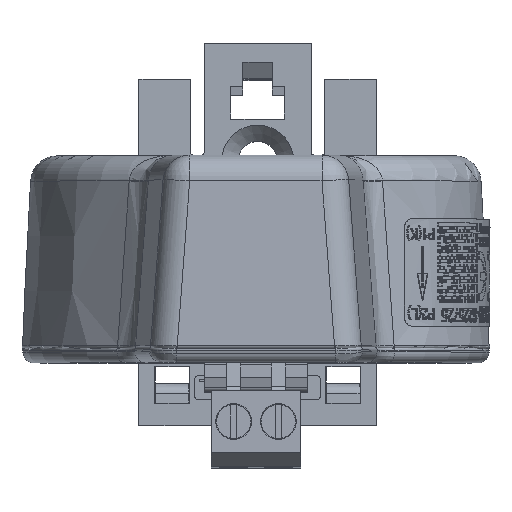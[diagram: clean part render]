
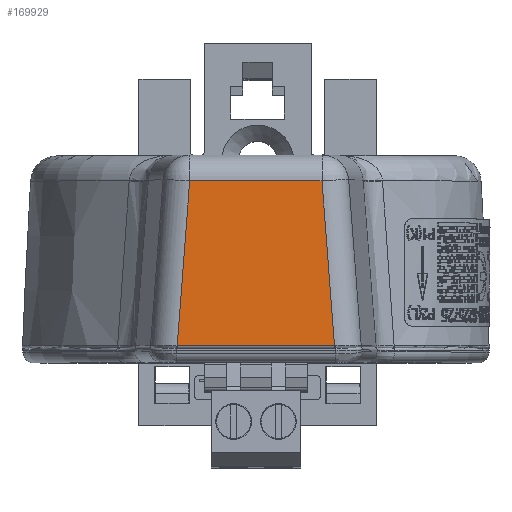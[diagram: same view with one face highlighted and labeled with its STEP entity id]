
A CAD part, top view. The second image highlights one B-rep face of the part: STEP entity #169929.
In plain terms, the highlighted planar face has unit normal (0, 0.035, 0.999).
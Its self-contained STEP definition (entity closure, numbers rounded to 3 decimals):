
#8297 = AXIS2_PLACEMENT_3D ( 'NONE', #196112, #57392, #165617 ) ;
#13917 = EDGE_CURVE ( 'NONE', #125368, #123972, #106775, .T. ) ;
#14128 = LINE ( 'NONE', #68824, #101404 ) ;
#21099 = ORIENTED_EDGE ( 'NONE', *, *, #13917, .F. ) ;
#26896 = ORIENTED_EDGE ( 'NONE', *, *, #33608, .F. ) ;
#27478 = CARTESIAN_POINT ( 'NONE',  ( 7.403, 25.63, 82.708 ) ) ;
#33608 = EDGE_CURVE ( 'NONE', #78818, #116842, #119317, .T. ) ;
#36695 = DIRECTION ( 'NONE',  ( 0.076, 0.997, -0.035 ) ) ;
#38759 = CARTESIAN_POINT ( 'NONE',  ( -8.797, 7.237, 83.35 ) ) ;
#53915 = CARTESIAN_POINT ( 'NONE',  ( 0., 7.237, 83.35 ) ) ;
#57392 = DIRECTION ( 'NONE',  ( 0., -0.035, -0.999 ) ) ;
#63238 = VECTOR ( 'NONE', #69483, 1000. ) ;
#68824 = CARTESIAN_POINT ( 'NONE',  ( 0., 25.63, 82.708 ) ) ;
#69483 = DIRECTION ( 'NONE',  ( -1., 0., 0. ) ) ;
#75211 = ORIENTED_EDGE ( 'NONE', *, *, #155887, .F. ) ;
#78818 = VERTEX_POINT ( 'NONE', #38759 ) ;
#90630 = EDGE_CURVE ( 'NONE', #116842, #125368, #14128, .T. ) ;
#98921 = EDGE_LOOP ( 'NONE', ( #21099, #161512, #26896, #75211 ) ) ;
#101404 = VECTOR ( 'NONE', #177099, 1000. ) ;
#103530 = PLANE ( 'NONE',  #8297 ) ;
#106775 = LINE ( 'NONE', #160221, #147899 ) ;
#114509 = VECTOR ( 'NONE', #36695, 1000. ) ;
#116842 = VERTEX_POINT ( 'NONE', #146345 ) ;
#119161 = CARTESIAN_POINT ( 'NONE',  ( 8.797, 7.237, 83.35 ) ) ;
#119317 = LINE ( 'NONE', #190890, #114509 ) ;
#123972 = VERTEX_POINT ( 'NONE', #119161 ) ;
#125368 = VERTEX_POINT ( 'NONE', #27478 ) ;
#145674 = LINE ( 'NONE', #53915, #63238 ) ;
#146345 = CARTESIAN_POINT ( 'NONE',  ( -7.403, 25.63, 82.708 ) ) ;
#147899 = VECTOR ( 'NONE', #155524, 1000. ) ;
#155524 = DIRECTION ( 'NONE',  ( 0.076, -0.997, 0.035 ) ) ;
#155887 = EDGE_CURVE ( 'NONE', #123972, #78818, #145674, .T. ) ;
#156850 = FACE_OUTER_BOUND ( 'NONE', #98921, .T. ) ;
#160221 = CARTESIAN_POINT ( 'NONE',  ( 7.403, 25.63, 82.708 ) ) ;
#161512 = ORIENTED_EDGE ( 'NONE', *, *, #90630, .F. ) ;
#165617 = DIRECTION ( 'NONE',  ( 0., 0.999, -0.035 ) ) ;
#169929 = ADVANCED_FACE ( 'NONE', ( #156850 ), #103530, .F. ) ;
#177099 = DIRECTION ( 'NONE',  ( 1., 0., 0. ) ) ;
#190890 = CARTESIAN_POINT ( 'NONE',  ( -8.797, 7.237, 83.35 ) ) ;
#196112 = CARTESIAN_POINT ( 'NONE',  ( 0., 8.525, 83.305 ) ) ;
